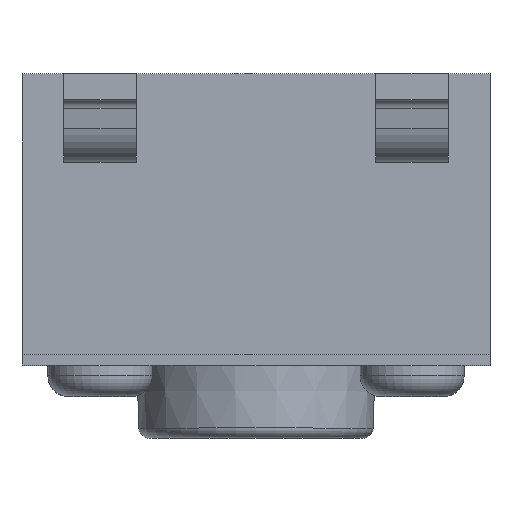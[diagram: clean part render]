
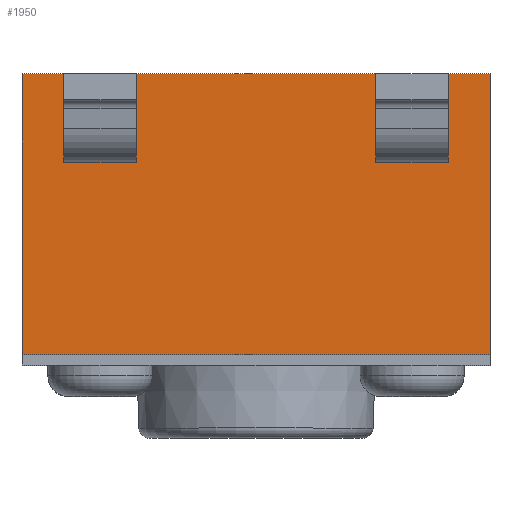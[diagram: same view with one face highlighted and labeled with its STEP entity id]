
A CAD part, top view. The second image highlights one B-rep face of the part: STEP entity #1950.
In plain terms, the highlighted planar face has unit normal (0, 0, 1).
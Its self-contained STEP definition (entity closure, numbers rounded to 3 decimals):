
#38=DIRECTION('',(1.,0.,0.));
#39=VECTOR('',#38,4.5);
#40=CARTESIAN_POINT('',(-2.25,0.,2.25));
#41=LINE('',#40,#39);
#195=DIRECTION('',(0.,1.,0.));
#196=VECTOR('',#195,2.7);
#197=CARTESIAN_POINT('',(2.25,0.,2.25));
#198=LINE('',#197,#196);
#202=DIRECTION('',(0.,1.,0.));
#203=VECTOR('',#202,2.7);
#204=CARTESIAN_POINT('',(-2.25,0.,2.25));
#205=LINE('',#204,#203);
#209=DIRECTION('',(1.,0.,0.));
#210=VECTOR('',#209,0.7);
#211=CARTESIAN_POINT('',(-1.85,2.1,2.25));
#212=LINE('',#211,#210);
#216=DIRECTION('',(0.,-1.,0.));
#217=VECTOR('',#216,0.25);
#218=CARTESIAN_POINT('',(-1.85,2.1,2.25));
#219=LINE('',#218,#217);
#223=DIRECTION('',(-1.,0.,0.));
#224=VECTOR('',#223,0.7);
#225=CARTESIAN_POINT('',(-1.15,1.85,2.25));
#226=LINE('',#225,#224);
#230=DIRECTION('',(0.,-1.,0.));
#231=VECTOR('',#230,0.25);
#232=CARTESIAN_POINT('',(-1.15,2.1,2.25));
#233=LINE('',#232,#231);
#237=DIRECTION('',(1.,0.,0.));
#238=VECTOR('',#237,0.7);
#239=CARTESIAN_POINT('',(1.15,2.1,2.25));
#240=LINE('',#239,#238);
#244=DIRECTION('',(0.,-1.,0.));
#245=VECTOR('',#244,0.25);
#246=CARTESIAN_POINT('',(1.15,2.1,2.25));
#247=LINE('',#246,#245);
#251=DIRECTION('',(-1.,0.,0.));
#252=VECTOR('',#251,0.7);
#253=CARTESIAN_POINT('',(1.85,1.85,2.25));
#254=LINE('',#253,#252);
#258=DIRECTION('',(0.,-1.,0.));
#259=VECTOR('',#258,0.25);
#260=CARTESIAN_POINT('',(1.85,2.1,2.25));
#261=LINE('',#260,#259);
#286=DIRECTION('',(1.,0.,0.));
#287=VECTOR('',#286,4.5);
#288=CARTESIAN_POINT('',(-2.25,2.7,2.25));
#289=LINE('',#288,#287);
#1558=CARTESIAN_POINT('',(-2.25,0.,2.25));
#1559=VERTEX_POINT('',#1558);
#1560=CARTESIAN_POINT('',(2.25,0.,2.25));
#1561=VERTEX_POINT('',#1560);
#1566=CARTESIAN_POINT('',(-2.25,2.7,2.25));
#1567=VERTEX_POINT('',#1566);
#1568=CARTESIAN_POINT('',(2.25,2.7,2.25));
#1569=VERTEX_POINT('',#1568);
#1734=CARTESIAN_POINT('',(1.15,1.85,2.25));
#1736=VERTEX_POINT('',#1734);
#1740=CARTESIAN_POINT('',(1.85,1.85,2.25));
#1741=VERTEX_POINT('',#1740);
#1750=CARTESIAN_POINT('',(-1.85,1.85,2.25));
#1752=VERTEX_POINT('',#1750);
#1756=CARTESIAN_POINT('',(-1.15,1.85,2.25));
#1757=VERTEX_POINT('',#1756);
#1794=CARTESIAN_POINT('',(-1.85,2.1,2.25));
#1795=CARTESIAN_POINT('',(-1.15,2.1,2.25));
#1796=VERTEX_POINT('',#1794);
#1797=VERTEX_POINT('',#1795);
#1802=CARTESIAN_POINT('',(1.15,2.1,2.25));
#1803=CARTESIAN_POINT('',(1.85,2.1,2.25));
#1804=VERTEX_POINT('',#1802);
#1805=VERTEX_POINT('',#1803);
#1917=CARTESIAN_POINT('',(-2.25,0.,2.25));
#1918=DIRECTION('',(0.,0.,1.));
#1919=DIRECTION('',(1.,0.,0.));
#1920=AXIS2_PLACEMENT_3D('',#1917,#1918,#1919);
#1921=PLANE('',#1920);
#1922=ORIENTED_EDGE('',*,*,#1831,.F.);
#1924=ORIENTED_EDGE('',*,*,#1923,.T.);
#1926=ORIENTED_EDGE('',*,*,#1925,.T.);
#1927=ORIENTED_EDGE('',*,*,#1909,.F.);
#1928=EDGE_LOOP('',(#1922,#1924,#1926,#1927));
#1929=FACE_OUTER_BOUND('',#1928,.F.);
#1931=ORIENTED_EDGE('',*,*,#1930,.F.);
#1933=ORIENTED_EDGE('',*,*,#1932,.T.);
#1935=ORIENTED_EDGE('',*,*,#1934,.F.);
#1937=ORIENTED_EDGE('',*,*,#1936,.F.);
#1938=EDGE_LOOP('',(#1931,#1933,#1935,#1937));
#1939=FACE_BOUND('',#1938,.F.);
#1941=ORIENTED_EDGE('',*,*,#1940,.F.);
#1943=ORIENTED_EDGE('',*,*,#1942,.T.);
#1945=ORIENTED_EDGE('',*,*,#1944,.F.);
#1947=ORIENTED_EDGE('',*,*,#1946,.F.);
#1948=EDGE_LOOP('',(#1941,#1943,#1945,#1947));
#1949=FACE_BOUND('',#1948,.F.);
#1831=EDGE_CURVE('',#1559,#1561,#41,.T.);
#1909=EDGE_CURVE('',#1561,#1569,#198,.T.);
#1923=EDGE_CURVE('',#1559,#1567,#205,.T.);
#1925=EDGE_CURVE('',#1567,#1569,#289,.T.);
#1930=EDGE_CURVE('',#1796,#1797,#212,.T.);
#1932=EDGE_CURVE('',#1796,#1752,#219,.T.);
#1934=EDGE_CURVE('',#1757,#1752,#226,.T.);
#1936=EDGE_CURVE('',#1797,#1757,#233,.T.);
#1940=EDGE_CURVE('',#1804,#1805,#240,.T.);
#1942=EDGE_CURVE('',#1804,#1736,#247,.T.);
#1944=EDGE_CURVE('',#1741,#1736,#254,.T.);
#1946=EDGE_CURVE('',#1805,#1741,#261,.T.);
#1950=ADVANCED_FACE('',(#1929,#1939,#1949),#1921,.T.);
